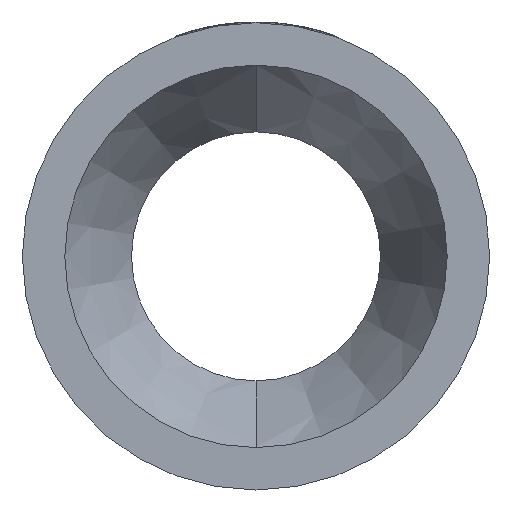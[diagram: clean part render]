
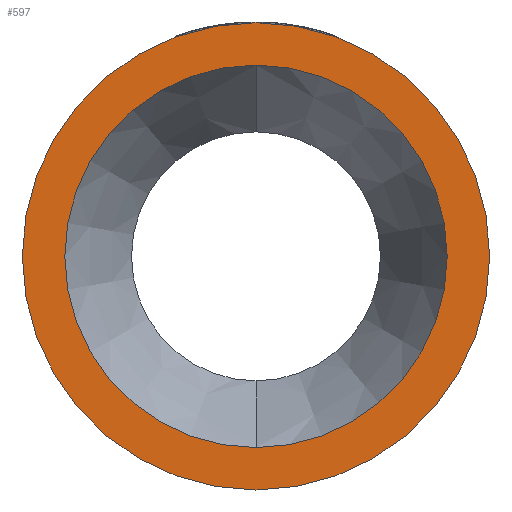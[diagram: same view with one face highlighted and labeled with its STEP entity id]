
A CAD part, left-side view. The second image highlights one B-rep face of the part: STEP entity #597.
In plain terms, the highlighted planar face has unit normal (-1, 0, 0).
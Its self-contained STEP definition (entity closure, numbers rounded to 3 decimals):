
#37 = DIRECTION ( 'NONE',  ( -1., 0., 0. ) ) ;
#222 = ORIENTED_EDGE ( 'NONE', *, *, #633, .T. ) ;
#270 = EDGE_CURVE ( 'NONE', #1245, #3336, #2481, .T. ) ;
#361 = FACE_OUTER_BOUND ( 'NONE', #1057, .T. ) ;
#386 = AXIS2_PLACEMENT_3D ( 'NONE', #1270, #3263, #1554 ) ;
#404 = CIRCLE ( 'NONE', #951, 128.9 ) ;
#558 = CARTESIAN_POINT ( 'NONE',  ( 0., 0., 0. ) ) ;
#565 = ORIENTED_EDGE ( 'NONE', *, *, #699, .F. ) ;
#574 = AXIS2_PLACEMENT_3D ( 'NONE', #961, #2971, #1258 ) ;
#597 = ADVANCED_FACE ( 'NONE', ( #2466, #361 ), #2682, .F. ) ;
#633 = EDGE_CURVE ( 'NONE', #1853, #1464, #3448, .T. ) ;
#646 = CARTESIAN_POINT ( 'NONE',  ( 0., 0., -128.9 ) ) ;
#699 = EDGE_CURVE ( 'NONE', #3336, #1245, #404, .T. ) ;
#951 = AXIS2_PLACEMENT_3D ( 'NONE', #3271, #1560, #3562 ) ;
#961 = CARTESIAN_POINT ( 'NONE',  ( 0., 128.9, 0. ) ) ;
#1057 = EDGE_LOOP ( 'NONE', ( #1240, #222 ) ) ;
#1096 = CARTESIAN_POINT ( 'NONE',  ( 0., 0., -157.5 ) ) ;
#1098 = CARTESIAN_POINT ( 'NONE',  ( 0., 0., 128.9 ) ) ;
#1240 = ORIENTED_EDGE ( 'NONE', *, *, #2615, .T. ) ;
#1245 = VERTEX_POINT ( 'NONE', #646 ) ;
#1258 = DIRECTION ( 'NONE',  ( 0., 0., -1. ) ) ;
#1270 = CARTESIAN_POINT ( 'NONE',  ( 0., 0., 0. ) ) ;
#1464 = VERTEX_POINT ( 'NONE', #3639 ) ;
#1554 = DIRECTION ( 'NONE',  ( 0., 0., 1. ) ) ;
#1560 = DIRECTION ( 'NONE',  ( -1., 0., 0. ) ) ;
#1747 = CARTESIAN_POINT ( 'NONE',  ( 0., 0., 0. ) ) ;
#1853 = VERTEX_POINT ( 'NONE', #1096 ) ;
#2041 = DIRECTION ( 'NONE',  ( 0., 0., 1. ) ) ;
#2466 = FACE_BOUND ( 'NONE', #3056, .T. ) ;
#2481 = CIRCLE ( 'NONE', #2722, 128.9 ) ;
#2507 = CIRCLE ( 'NONE', #2666, 157.5 ) ;
#2615 = EDGE_CURVE ( 'NONE', #1464, #1853, #2507, .T. ) ;
#2666 = AXIS2_PLACEMENT_3D ( 'NONE', #1747, #37, #2041 ) ;
#2682 = PLANE ( 'NONE',  #574 ) ;
#2722 = AXIS2_PLACEMENT_3D ( 'NONE', #558, #2865, #2920 ) ;
#2865 = DIRECTION ( 'NONE',  ( -1., 0., 0. ) ) ;
#2920 = DIRECTION ( 'NONE',  ( 0., 0., 1. ) ) ;
#2971 = DIRECTION ( 'NONE',  ( 1., 0., 0. ) ) ;
#3056 = EDGE_LOOP ( 'NONE', ( #565, #3477 ) ) ;
#3263 = DIRECTION ( 'NONE',  ( -1., 0., 0. ) ) ;
#3271 = CARTESIAN_POINT ( 'NONE',  ( 0., 0., 0. ) ) ;
#3336 = VERTEX_POINT ( 'NONE', #1098 ) ;
#3448 = CIRCLE ( 'NONE', #386, 157.5 ) ;
#3477 = ORIENTED_EDGE ( 'NONE', *, *, #270, .F. ) ;
#3562 = DIRECTION ( 'NONE',  ( 0., 0., 1. ) ) ;
#3639 = CARTESIAN_POINT ( 'NONE',  ( 0., 0., 157.5 ) ) ;
